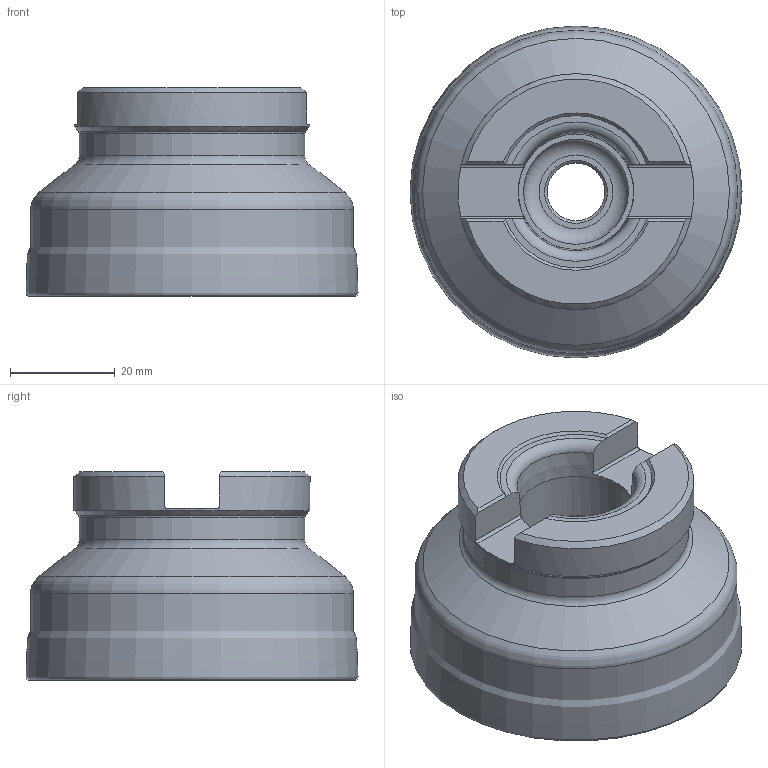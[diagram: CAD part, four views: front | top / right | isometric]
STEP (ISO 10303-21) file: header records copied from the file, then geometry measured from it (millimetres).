
FILE_DESCRIPTION(/* description */ (''),/* implementation_level */ '2;1');
FILE_NAME(/* name */ '637721709539397552.stp',/* time_stamp */ '2021-11-10T19:56:06+08:00',/* author */ (''),/* organization */ (''),/* preprocessor_version */ 'ST-DEVELOPER v16.7',/* originating_system */ 'SIEMENS PLM Software NX 12.0',/* authorisation */ '');
FILE_SCHEMA (('AUTOMOTIVE_DESIGN { 1 0 10303 214 3 1 1 1 }'));
Length unit declared in the file: millimetre
Products named in the file (2): 637721709500109708_WNHU080608PNR-GM; 637721709481203374_FMP12-063-A22-WN08-05C_S
Assembly tree (5 placements, depth 2):
  637721709481203374_FMP12-063-A22-WN08-05C_S
    637721709500109708_WNHU080608PNR-GM  x5
Bounding box: 63.3 x 63.3 x 39.84 mm (x, y, z)
Volume: 95007.7 mm3; surface area: 21097.2 mm2
Topology: 2 solids, 2 shells, 63 faces, 151 edges, 93 vertices
Faces by surface type: plane 19, cone 15, cylinder 12, torus 12, revolution 5
Full cylindrical faces by diameter (mm): 11 x1, 18 x1, 22 x1, 24 x1, 43 x1, 45 x1, 60.6 x1, 61.6 x1
Entity records: 1918 total; most frequent: CARTESIAN_POINT 570, DIRECTION 261, ORIENTED_EDGE 210, AXIS2_PLACEMENT_3D 116, EDGE_CURVE 105, EDGE_LOOP 100, VERTEX_POINT 81, FACE_BOUND 76
